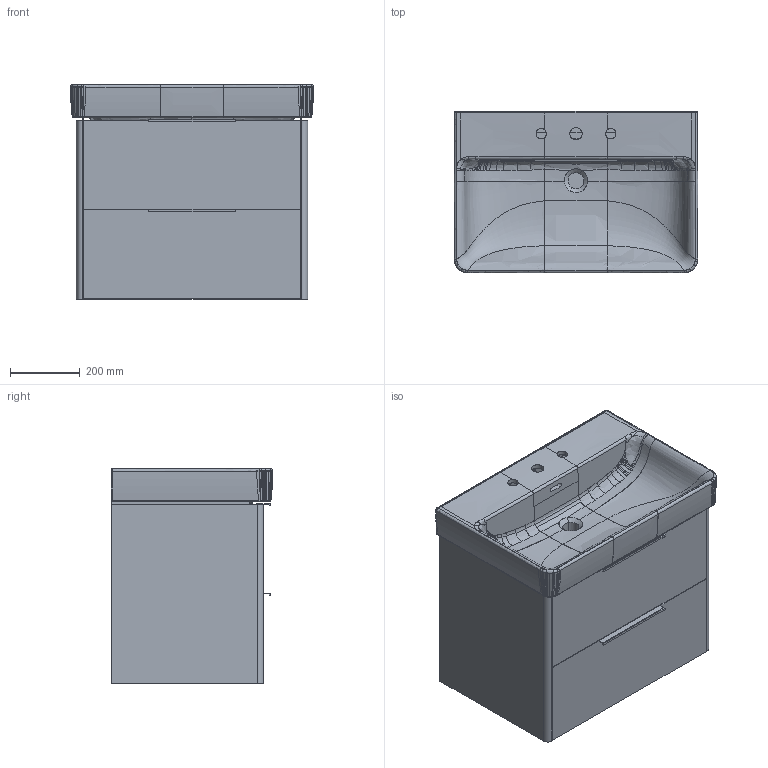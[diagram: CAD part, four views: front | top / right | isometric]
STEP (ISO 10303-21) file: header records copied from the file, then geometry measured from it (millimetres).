
FILE_DESCRIPTION(/* description */ (''),/* implementation_level */ '2;1');
FILE_NAME(/* name */ 'C:\Users\User33\Desktop\Base\3D01_402332.stp',/* time_stamp */ '2018-05-05T14:44:27+02:00',/* author */ ('User33'),/* organization */ (''),/* preprocessor_version */ 'ST-DEVELOPER v16.13',/* originating_system */ 'Autodesk Inventor 2018',/* authorisation */ '');
FILE_SCHEMA (('AUTOMOTIVE_DESIGN { 1 0 10303 214 3 1 1 }'));
Products named in the file (24): Scheletro monoblocco curvo 665; Catena_superiore; Frontale cassetto superiore; Catena inferiore; Fianco sx; Fianco dx; Fondo mobile; Fondo cassetto superiore; Fondo cassetto inferiore; Retro cassetto superiore; Fascia rialzo; Retro_cassetto inferiore; Frontale cassetto inferiore; Maniglia superiore; maniglia inferiore; 350-84; 350-84_1; 350-84_2; 350-84_3; HY10967......1_A; 350-84_MIR3; 350-84_1_MIR3; 350-84_2_MIR3; 350-84_3_MIR3
Assembly tree (25 placements, depth 3):
  Scheletro monoblocco curvo 665
    Catena_superiore
    Frontale cassetto superiore
    Catena inferiore
    Fianco sx
    Fianco dx
    Fondo mobile
    Fondo cassetto superiore
    Fondo cassetto inferiore
    Retro cassetto superiore
    Fascia rialzo
    Retro_cassetto inferiore
    Frontale cassetto inferiore
    Maniglia superiore
    maniglia inferiore
    350-84  x2
      350-84_1
      350-84_2
      350-84_3
    HY10967......1_A
    350-84_MIR3  x2
      350-84_1_MIR3
      350-84_2_MIR3
      350-84_3_MIR3
Bounding box: 699.94 x 464.97 x 617 mm (x, y, z)
Volume: 29559098.5 mm3; surface area: 5463503.1 mm2
Topology: 28 solids, 895 shells, 1830 faces, 7270 edges, 6397 vertices
Faces by surface type: plane 865, bspline 732, cylinder 206, cone 18, sphere 6, torus 3
Full cylindrical faces by diameter (mm): 4 x16, 4.1 x4, 5 x8, 5.1 x4, 6 x12, 6.3 x48
Entity records: 223943 total; most frequent: CARTESIAN_POINT 179621, ORIENTED_EDGE 7441, DIRECTION 6159, EDGE_CURVE 6048, VERTEX_POINT 5617, B_SPLINE_CURVE_WITH_KNOTS 2436, AXIS2_PLACEMENT_3D 2254, LINE 1651
